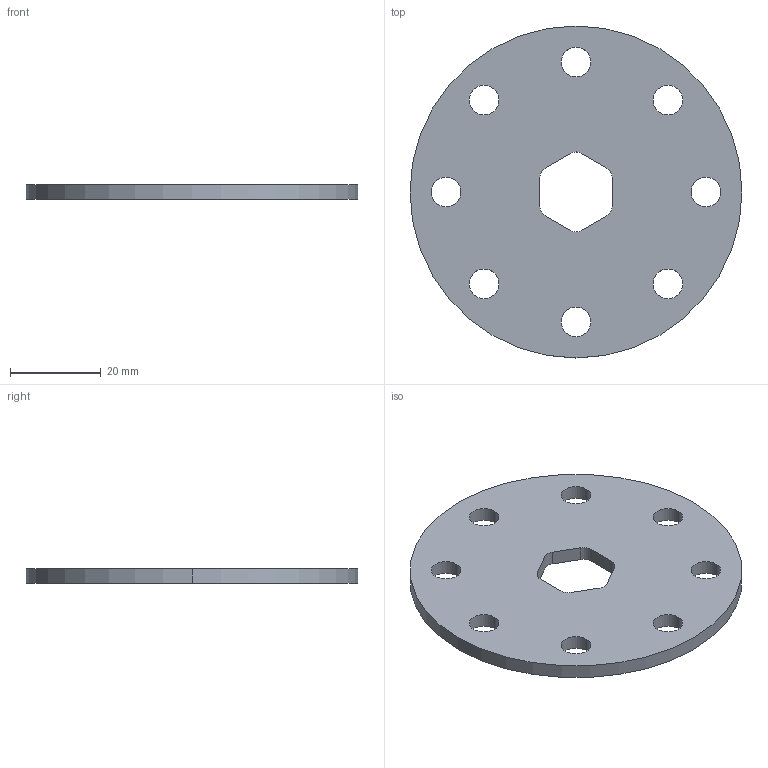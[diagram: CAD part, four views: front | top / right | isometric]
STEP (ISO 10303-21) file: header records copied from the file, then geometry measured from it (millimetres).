
FILE_DESCRIPTION (( 'STEP AP203' ), '1' );
FILE_NAME ('FDPCK-MC-HEX-DISC.step', '2019-09-11T18:39:54', ( 'ydmin' ), ( '' ), 'SwSTEP 2.0', 'SolidWorks 2017', '' );
FILE_SCHEMA (( 'CONFIG_CONTROL_DESIGN' ));
Length unit declared in the file: inch
Products named in the file (1): FDPCK-MC-HEX-DISC
Bounding box: 73.03 x 73.03 x 3.17 mm (x, y, z)
Volume: 11760.5 mm3; surface area: 8827.2 mm2
Topology: 1 solids, 1 shells, 32 faces, 90 edges, 60 vertices
Faces by surface type: cylinder 24, plane 8
Entity records: 1177 total; most frequent: DIRECTION 204, CARTESIAN_POINT 183, ORIENTED_EDGE 180, EDGE_CURVE 90, AXIS2_PLACEMENT_3D 81, VERTEX_POINT 60, EDGE_LOOP 50, CIRCLE 48
